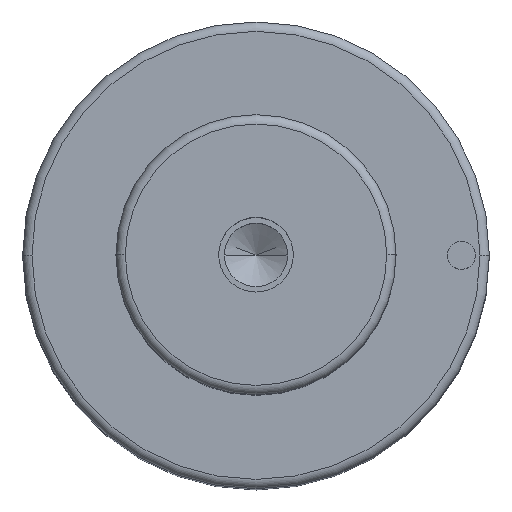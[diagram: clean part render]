
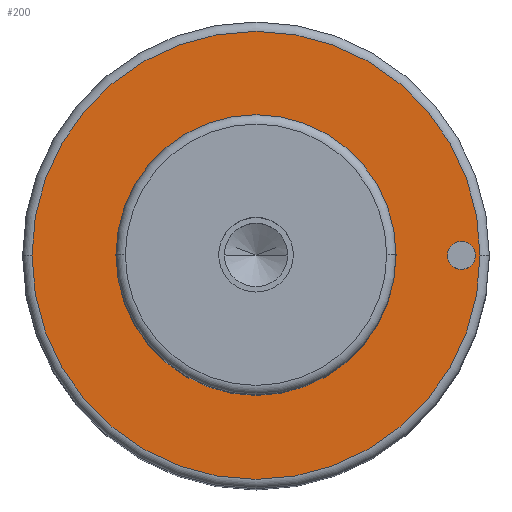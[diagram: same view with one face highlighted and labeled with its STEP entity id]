
A CAD part, top view. The second image highlights one B-rep face of the part: STEP entity #200.
In plain terms, the highlighted planar face has unit normal (0, 0, 1).
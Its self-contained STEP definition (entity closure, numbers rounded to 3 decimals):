
#99=PLANE('',#596);
#107=FACE_BOUND('',#265,.T.);
#108=FACE_BOUND('',#266,.T.);
#109=FACE_BOUND('',#267,.T.);
#200=ADVANCED_FACE('',(#107,#108,#109),#99,.T.);
#265=EDGE_LOOP('',(#359,#360));
#266=EDGE_LOOP('',(#361,#362));
#267=EDGE_LOOP('',(#363,#364));
#359=ORIENTED_EDGE('',*,*,#460,.F.);
#360=ORIENTED_EDGE('',*,*,#461,.F.);
#361=ORIENTED_EDGE('',*,*,#485,.F.);
#362=ORIENTED_EDGE('',*,*,#486,.F.);
#363=ORIENTED_EDGE('',*,*,#456,.T.);
#364=ORIENTED_EDGE('',*,*,#454,.T.);
#411=VERTEX_POINT('',#808);
#412=VERTEX_POINT('',#810);
#413=VERTEX_POINT('',#816);
#416=VERTEX_POINT('',#821);
#430=VERTEX_POINT('',#875);
#431=VERTEX_POINT('',#876);
#454=EDGE_CURVE('',#412,#411,#513,.T.);
#456=EDGE_CURVE('',#411,#412,#514,.T.);
#460=EDGE_CURVE('',#416,#413,#518,.T.);
#461=EDGE_CURVE('',#413,#416,#519,.T.);
#485=EDGE_CURVE('',#430,#431,#533,.T.);
#486=EDGE_CURVE('',#431,#430,#534,.T.);
#513=CIRCLE('',#558,15.);
#514=CIRCLE('',#560,15.);
#518=CIRCLE('',#565,24.);
#519=CIRCLE('',#567,24.);
#533=CIRCLE('',#594,1.5);
#534=CIRCLE('',#595,1.5);
#558=AXIS2_PLACEMENT_3D('',#809,#647,#648);
#560=AXIS2_PLACEMENT_3D('',#813,#652,#653);
#565=AXIS2_PLACEMENT_3D('',#822,#662,#663);
#567=AXIS2_PLACEMENT_3D('',#824,#666,#667);
#594=AXIS2_PLACEMENT_3D('',#874,#730,#731);
#595=AXIS2_PLACEMENT_3D('',#877,#732,#733);
#596=AXIS2_PLACEMENT_3D('',#878,#734,#735);
#647=DIRECTION('',(0.,0.,-1.));
#648=DIRECTION('',(0.,1.,0.));
#652=DIRECTION('',(0.,0.,-1.));
#653=DIRECTION('',(0.,-1.,0.));
#662=DIRECTION('',(0.,0.,-1.));
#663=DIRECTION('',(0.,1.,0.));
#666=DIRECTION('',(0.,0.,-1.));
#667=DIRECTION('',(0.,-1.,0.));
#730=DIRECTION('',(0.,0.,1.));
#731=DIRECTION('',(0.,1.,0.));
#732=DIRECTION('',(0.,0.,1.));
#733=DIRECTION('',(0.,-1.,0.));
#734=DIRECTION('',(0.,0.,1.));
#735=DIRECTION('',(0.,-1.,0.));
#808=CARTESIAN_POINT('',(-15.,0.,77.));
#809=CARTESIAN_POINT('',(0.,0.,77.));
#810=CARTESIAN_POINT('',(15.,0.,77.));
#813=CARTESIAN_POINT('',(0.,0.,77.));
#816=CARTESIAN_POINT('',(-24.,0.,77.));
#821=CARTESIAN_POINT('',(24.,0.,77.));
#822=CARTESIAN_POINT('',(0.,0.,77.));
#824=CARTESIAN_POINT('',(0.,0.,77.));
#874=CARTESIAN_POINT('',(22.,0.,77.));
#875=CARTESIAN_POINT('',(20.5,0.,77.));
#876=CARTESIAN_POINT('',(23.5,0.,77.));
#877=CARTESIAN_POINT('',(22.,0.,77.));
#878=CARTESIAN_POINT('',(0.,0.,77.));
